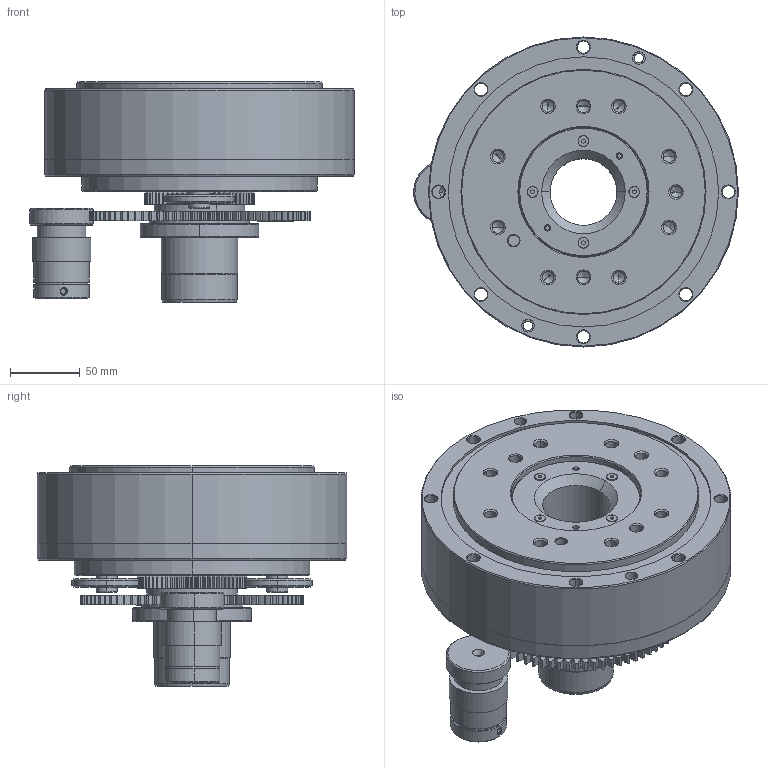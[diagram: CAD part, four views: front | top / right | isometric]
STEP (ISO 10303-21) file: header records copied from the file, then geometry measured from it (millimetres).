
FILE_DESCRIPTION (( 'STEP AP214' ), '1' );
FILE_NAME ('50CBX-121K-RVC-22X45L65.STEP', '2022-11-13T03:08:35', ( '' ), ( '' ), 'SwSTEP 2.0', 'SolidWorks 2020', '' );
FILE_SCHEMA (( 'AUTOMOTIVE_DESIGN' ));
Length unit declared in the file: millimetre
Products named in the file (10): 腴厒奪.stp; RVCGEAR-121K-22X45L65.stp; 錨璃448^50CBX-121K-RVC-22X45L65; 50CBX-121K-RVC-22X45L65; 粣創 61813-LS GB_T 276-94.stp; 50CBX-OP00.stp; 笢陑喘謫50C.stp; 50CBX-121K-RVC-22X45L65.stp; 50CBX-OP-STD.stp; ASME_ANSI B18.3.5M - M4x10(2).stp
Assembly tree (13 placements, depth 4):
  50CBX-121K-RVC-22X45L65
    50CBX-121K-RVC-22X45L65.stp
      50CBX-OP-STD.stp
        50CBX-OP00.stp
        腴厒奪.stp
        笢陑喘謫50C.stp
        粣創 61813-LS GB_T 276-94.stp  x2
        ASME_ANSI B18.3.5M - M4x10(2).stp  x4
      RVCGEAR-121K-22X45L65.stp
    錨璃448^50CBX-121K-RVC-22X45L65
Bounding box: 233.18 x 222.5 x 158.42 mm (x, y, z)
Volume: 2747969.7 mm3; surface area: 361621.6 mm2
Topology: 124 solids, 124 shells, 3121 faces, 8470 edges, 5547 vertices
Faces by surface type: plane 1254, cylinder 817, bspline 572, cone 214, torus 172, sphere 92
Entity records: 115855 total; most frequent: CARTESIAN_POINT 45443, ORIENTED_EDGE 15330, DIRECTION 12724, EDGE_CURVE 7665, VERTEX_POINT 5053, LINE 4544, VECTOR 4544, AXIS2_PLACEMENT_3D 4090
